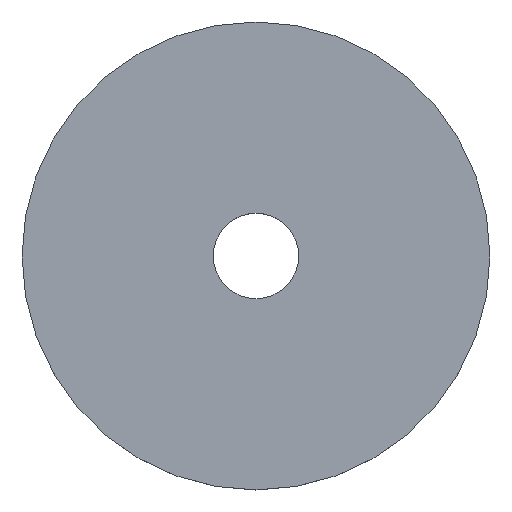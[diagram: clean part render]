
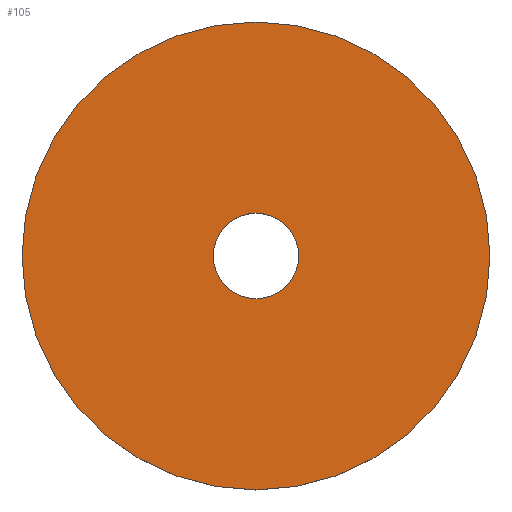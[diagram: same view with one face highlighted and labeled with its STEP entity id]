
A CAD part, top view. The second image highlights one B-rep face of the part: STEP entity #105.
In plain terms, the highlighted planar face has unit normal (0, 0, 1).
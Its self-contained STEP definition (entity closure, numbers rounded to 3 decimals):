
#21 = EDGE_CURVE('',#22,#22,#24,.T.);
#22 = VERTEX_POINT('',#23);
#23 = CARTESIAN_POINT('',(169.,0.,76.));
#24 = SURFACE_CURVE('',#25,(#30,#42),.PCURVE_S1.);
#25 = CIRCLE('',#26,34.);
#26 = AXIS2_PLACEMENT_3D('',#27,#28,#29);
#27 = CARTESIAN_POINT('',(135.,0.,76.));
#28 = DIRECTION('',(0.,0.,1.));
#29 = DIRECTION('',(1.,0.,-0.));
#30 = PCURVE('',#31,#36);
#31 = CYLINDRICAL_SURFACE('',#32,34.);
#32 = AXIS2_PLACEMENT_3D('',#33,#34,#35);
#33 = CARTESIAN_POINT('',(135.,0.,72.));
#34 = DIRECTION('',(0.,0.,1.));
#35 = DIRECTION('',(1.,0.,-0.));
#36 = DEFINITIONAL_REPRESENTATION('',(#37),#41);
#37 = LINE('',#38,#39);
#38 = CARTESIAN_POINT('',(0.,4.));
#39 = VECTOR('',#40,1.);
#40 = DIRECTION('',(1.,0.));
#41 = ( GEOMETRIC_REPRESENTATION_CONTEXT(2) 
PARAMETRIC_REPRESENTATION_CONTEXT() REPRESENTATION_CONTEXT('2D SPACE',''
  ) );
#42 = PCURVE('',#43,#48);
#43 = PLANE('',#44);
#44 = AXIS2_PLACEMENT_3D('',#45,#46,#47);
#45 = CARTESIAN_POINT('',(135.,0.,76.));
#46 = DIRECTION('',(0.,0.,1.));
#47 = DIRECTION('',(1.,0.,-0.));
#48 = DEFINITIONAL_REPRESENTATION('',(#49),#53);
#49 = CIRCLE('',#50,34.);
#50 = AXIS2_PLACEMENT_2D('',#51,#52);
#51 = CARTESIAN_POINT('',(0.,0.));
#52 = DIRECTION('',(1.,0.));
#53 = ( GEOMETRIC_REPRESENTATION_CONTEXT(2) 
PARAMETRIC_REPRESENTATION_CONTEXT() REPRESENTATION_CONTEXT('2D SPACE',''
  ) );
#105 = ADVANCED_FACE('',(#106,#109),#43,.T.);
#106 = FACE_BOUND('',#107,.T.);
#107 = EDGE_LOOP('',(#108));
#108 = ORIENTED_EDGE('',*,*,#21,.T.);
#109 = FACE_BOUND('',#110,.T.);
#110 = EDGE_LOOP('',(#111));
#111 = ORIENTED_EDGE('',*,*,#112,.F.);
#112 = EDGE_CURVE('',#113,#113,#115,.T.);
#113 = VERTEX_POINT('',#114);
#114 = CARTESIAN_POINT('',(141.2,0.,76.));
#115 = SURFACE_CURVE('',#116,(#121,#128),.PCURVE_S1.);
#116 = CIRCLE('',#117,6.2);
#117 = AXIS2_PLACEMENT_3D('',#118,#119,#120);
#118 = CARTESIAN_POINT('',(135.,0.,76.));
#119 = DIRECTION('',(0.,0.,1.));
#120 = DIRECTION('',(1.,0.,-0.));
#121 = PCURVE('',#43,#122);
#122 = DEFINITIONAL_REPRESENTATION('',(#123),#127);
#123 = CIRCLE('',#124,6.2);
#124 = AXIS2_PLACEMENT_2D('',#125,#126);
#125 = CARTESIAN_POINT('',(0.,0.));
#126 = DIRECTION('',(1.,0.));
#127 = ( GEOMETRIC_REPRESENTATION_CONTEXT(2) 
PARAMETRIC_REPRESENTATION_CONTEXT() REPRESENTATION_CONTEXT('2D SPACE',''
  ) );
#128 = PCURVE('',#129,#134);
#129 = CYLINDRICAL_SURFACE('',#130,6.2);
#130 = AXIS2_PLACEMENT_3D('',#131,#132,#133);
#131 = CARTESIAN_POINT('',(135.,0.,72.));
#132 = DIRECTION('',(0.,0.,1.));
#133 = DIRECTION('',(1.,0.,-0.));
#134 = DEFINITIONAL_REPRESENTATION('',(#135),#139);
#135 = LINE('',#136,#137);
#136 = CARTESIAN_POINT('',(0.,4.));
#137 = VECTOR('',#138,1.);
#138 = DIRECTION('',(1.,0.));
#139 = ( GEOMETRIC_REPRESENTATION_CONTEXT(2) 
PARAMETRIC_REPRESENTATION_CONTEXT() REPRESENTATION_CONTEXT('2D SPACE',''
  ) );
